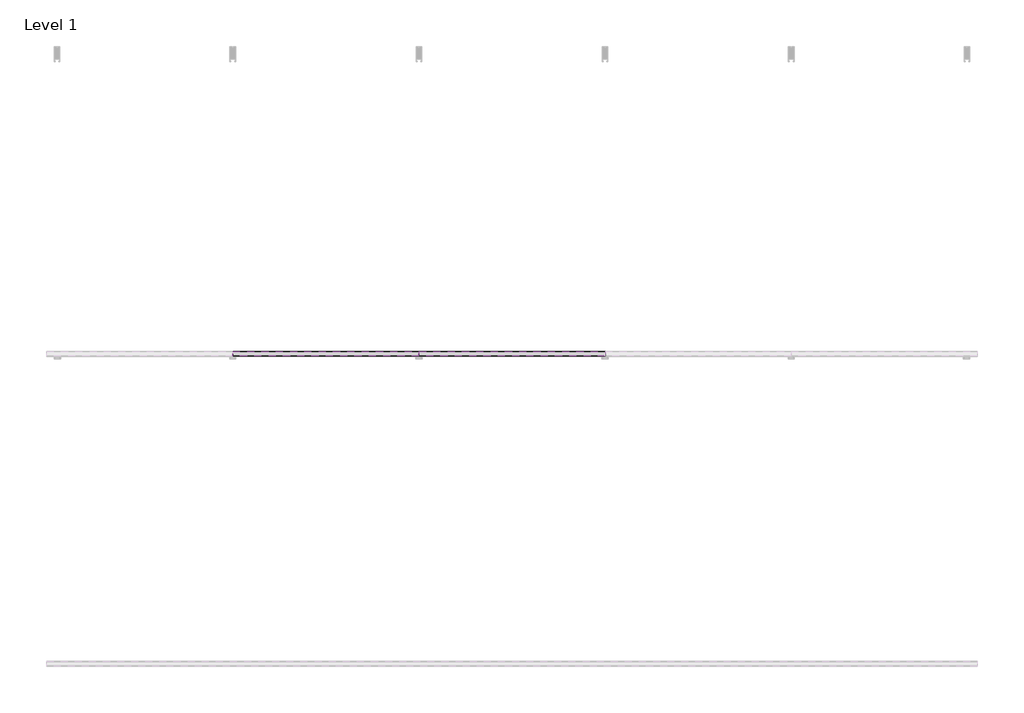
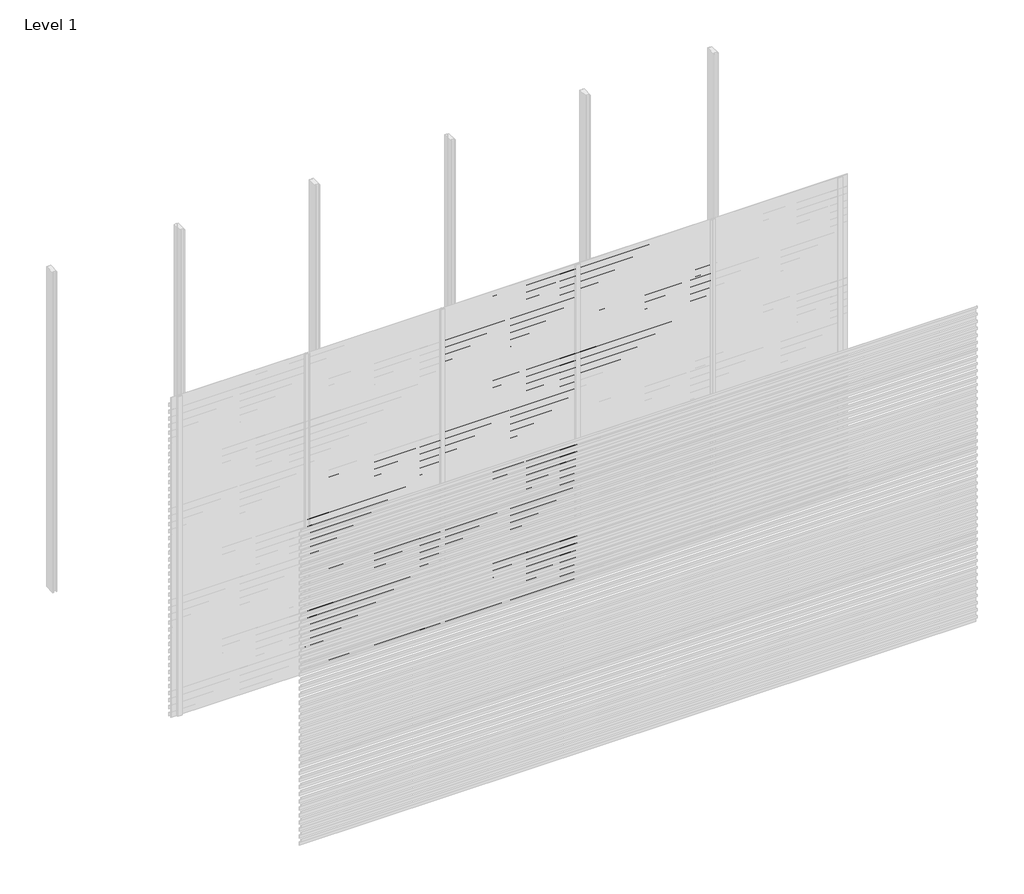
# One storey, part 20 of 33: 88 proxies.
"""IFC4 building model written with IfcOpenShell, lengths in millimetres."""

from ifc_helpers import new_model, si_unit, frame, origin, place, context, project, spatial, polyline, outline, extrude, element, save

model = new_model("IFC4")

# Units and contexts
model_context = context("Model", 3, world=origin())
ifc_project = project(units=[si_unit("LENGTHUNIT", "METRE", prefix="MILLI")], contexts=[model_context])

# Site, building, storey
site = spatial("IfcSite", under=ifc_project)
building = spatial("IfcBuilding", under=site)
storey = spatial("IfcBuildingStorey", under=building, Name="Level 1", Elevation=0.0)

# Proxies
placement = place(None, origin())
element("IfcBuildingElementProxy", 1, Name="Wall Sweeps", at=placement, inside=storey, context=model_context, shape_type="SweptSolid", body=[
    extrude(outline(polyline([(-23967.0, 1742.0), (-23967.0, 1709.0), (-23968.25, 1709.7216933), (-23968.25, 1741.2872415), (-23998.0, 1762.0588647), (-23998.0, 1782.0), (-23996.75, 1782.0), (-23996.75, 1762.7716232), (-23967.0, 1742.0)])), frame((1200.0, 0.0, 0.0), z_axis=(1.0, 0.0, 0.0), x_axis=(0.0, 1.0, 0.0)), (0.0, 0.0, 1.0), 1200.0),
])
element("IfcBuildingElementProxy", 2, Name="Wall Sweeps", at=placement, inside=storey, context=model_context, shape_type="SweptSolid", body=[
    extrude(outline(polyline([(-23967.0, 1676.0), (-23967.0, 1643.0), (-23968.25, 1643.7216933), (-23968.25, 1675.2872415), (-23998.0, 1696.0588647), (-23998.0, 1716.0), (-23996.75, 1716.0), (-23996.75, 1696.7716232), (-23967.0, 1676.0)])), frame((1200.0, 0.0, 0.0), z_axis=(1.0, 0.0, 0.0), x_axis=(0.0, 1.0, 0.0)), (0.0, 0.0, 1.0), 1200.0),
])
element("IfcBuildingElementProxy", 3, Name="Wall Sweeps", at=placement, inside=storey, context=model_context, shape_type="SweptSolid", body=[
    extrude(outline(polyline([(-23967.0, 1610.0), (-23967.0, 1577.0), (-23968.25, 1577.7216933), (-23968.25, 1609.2872415), (-23998.0, 1630.0588647), (-23998.0, 1650.0), (-23996.75, 1650.0), (-23996.75, 1630.7716232), (-23967.0, 1610.0)])), frame((1200.0, 0.0, 0.0), z_axis=(1.0, 0.0, 0.0), x_axis=(0.0, 1.0, 0.0)), (0.0, 0.0, 1.0), 1200.0),
])
element("IfcBuildingElementProxy", 4, Name="Wall Sweeps", at=placement, inside=storey, context=model_context, shape_type="SweptSolid", body=[
    extrude(outline(polyline([(-23967.0, 1544.0), (-23967.0, 1511.0), (-23968.25, 1511.7216933), (-23968.25, 1543.2872415), (-23998.0, 1564.0588647), (-23998.0, 1584.0), (-23996.75, 1584.0), (-23996.75, 1564.7716232), (-23967.0, 1544.0)])), frame((1200.0, 0.0, 0.0), z_axis=(1.0, 0.0, 0.0), x_axis=(0.0, 1.0, 0.0)), (0.0, 0.0, 1.0), 1200.0),
])
element("IfcBuildingElementProxy", 5, Name="Wall Sweeps", at=placement, inside=storey, context=model_context, shape_type="SweptSolid", body=[
    extrude(outline(polyline([(-23967.0, 1478.0), (-23967.0, 1445.0), (-23968.25, 1445.7216933), (-23968.25, 1477.2872415), (-23998.0, 1498.0588647), (-23998.0, 1518.0), (-23996.75, 1518.0), (-23996.75, 1498.7716232), (-23967.0, 1478.0)])), frame((1200.0, 0.0, 0.0), z_axis=(1.0, 0.0, 0.0), x_axis=(0.0, 1.0, 0.0)), (0.0, 0.0, 1.0), 1200.0),
])
element("IfcBuildingElementProxy", 6, Name="Wall Sweeps", at=placement, inside=storey, context=model_context, shape_type="SweptSolid", body=[
    extrude(outline(polyline([(-23967.0, 1412.0), (-23967.0, 1379.0), (-23968.25, 1379.7216933), (-23968.25, 1411.2872415), (-23998.0, 1432.0588647), (-23998.0, 1452.0), (-23996.75, 1452.0), (-23996.75, 1432.7716232), (-23967.0, 1412.0)])), frame((1200.0, 0.0, 0.0), z_axis=(1.0, 0.0, 0.0), x_axis=(0.0, 1.0, 0.0)), (0.0, 0.0, 1.0), 1200.0),
])
element("IfcBuildingElementProxy", 7, Name="Wall Sweeps", at=placement, inside=storey, context=model_context, shape_type="SweptSolid", body=[
    extrude(outline(polyline([(-23967.0, 1346.0), (-23967.0, 1313.0), (-23968.25, 1313.7216933), (-23968.25, 1345.2872415), (-23998.0, 1366.0588647), (-23998.0, 1386.0), (-23996.75, 1386.0), (-23996.75, 1366.7716232), (-23967.0, 1346.0)])), frame((1200.0, 0.0, 0.0), z_axis=(1.0, 0.0, 0.0), x_axis=(0.0, 1.0, 0.0)), (0.0, 0.0, 1.0), 1200.0),
])
element("IfcBuildingElementProxy", 8, Name="Wall Sweeps", at=placement, inside=storey, context=model_context, shape_type="SweptSolid", body=[
    extrude(outline(polyline([(-23967.0, 1280.0), (-23967.0, 1247.0), (-23968.25, 1247.7216933), (-23968.25, 1279.2872415), (-23998.0, 1300.0588647), (-23998.0, 1320.0), (-23996.75, 1320.0), (-23996.75, 1300.7716232), (-23967.0, 1280.0)])), frame((1200.0, 0.0, 0.0), z_axis=(1.0, 0.0, 0.0), x_axis=(0.0, 1.0, 0.0)), (0.0, 0.0, 1.0), 1200.0),
])
element("IfcBuildingElementProxy", 9, Name="Wall Sweeps", at=placement, inside=storey, context=model_context, shape_type="SweptSolid", body=[
    extrude(outline(polyline([(-23967.0, 1214.0), (-23967.0, 1181.0), (-23968.25, 1181.7216933), (-23968.25, 1213.2872415), (-23998.0, 1234.0588647), (-23998.0, 1254.0), (-23996.75, 1254.0), (-23996.75, 1234.7716232), (-23967.0, 1214.0)])), frame((1200.0, 0.0, 0.0), z_axis=(1.0, 0.0, 0.0), x_axis=(0.0, 1.0, 0.0)), (0.0, 0.0, 1.0), 1200.0),
])
element("IfcBuildingElementProxy", 10, Name="Wall Sweeps", at=placement, inside=storey, context=model_context, shape_type="SweptSolid", body=[
    extrude(outline(polyline([(-23967.0, 1148.0), (-23967.0, 1115.0), (-23968.25, 1115.7216933), (-23968.25, 1147.2872415), (-23998.0, 1168.0588647), (-23998.0, 1188.0), (-23996.75, 1188.0), (-23996.75, 1168.7716232), (-23967.0, 1148.0)])), frame((1200.0, 0.0, 0.0), z_axis=(1.0, 0.0, 0.0), x_axis=(0.0, 1.0, 0.0)), (0.0, 0.0, 1.0), 1200.0),
])
element("IfcBuildingElementProxy", 11, Name="Wall Sweeps", at=placement, inside=storey, context=model_context, shape_type="SweptSolid", body=[
    extrude(outline(polyline([(-23967.0, 1082.0), (-23967.0, 1049.0), (-23968.25, 1049.7216933), (-23968.25, 1081.2872415), (-23998.0, 1102.0588647), (-23998.0, 1122.0), (-23996.75, 1122.0), (-23996.75, 1102.7716232), (-23967.0, 1082.0)])), frame((1200.0, 0.0, 0.0), z_axis=(1.0, 0.0, 0.0), x_axis=(0.0, 1.0, 0.0)), (0.0, 0.0, 1.0), 1200.0),
])
element("IfcBuildingElementProxy", 12, Name="Wall Sweeps", at=placement, inside=storey, context=model_context, shape_type="SweptSolid", body=[
    extrude(outline(polyline([(-23967.0, 1016.0), (-23967.0, 983.0), (-23968.25, 983.7216933), (-23968.25, 1015.2872415), (-23998.0, 1036.0588647), (-23998.0, 1056.0), (-23996.75, 1056.0), (-23996.75, 1036.7716232), (-23967.0, 1016.0)])), frame((1200.0, 0.0, 0.0), z_axis=(1.0, 0.0, 0.0), x_axis=(0.0, 1.0, 0.0)), (0.0, 0.0, 1.0), 1200.0),
])
element("IfcBuildingElementProxy", 13, Name="Wall Sweeps", at=placement, inside=storey, context=model_context, shape_type="SweptSolid", body=[
    extrude(outline(polyline([(-23967.0, 950.0), (-23967.0, 917.0), (-23968.25, 917.7216933), (-23968.25, 949.2872415), (-23998.0, 970.0588647), (-23998.0, 990.0), (-23996.75, 990.0), (-23996.75, 970.7716232), (-23967.0, 950.0)])), frame((1200.0, 0.0, 0.0), z_axis=(1.0, 0.0, 0.0), x_axis=(0.0, 1.0, 0.0)), (0.0, 0.0, 1.0), 1200.0),
])
element("IfcBuildingElementProxy", 14, Name="Wall Sweeps", at=placement, inside=storey, context=model_context, shape_type="SweptSolid", body=[
    extrude(outline(polyline([(-23967.0, 884.0), (-23967.0, 851.0), (-23968.25, 851.7216933), (-23968.25, 883.2872415), (-23998.0, 904.0588647), (-23998.0, 924.0), (-23996.75, 924.0), (-23996.75, 904.7716232), (-23967.0, 884.0)])), frame((1200.0, 0.0, 0.0), z_axis=(1.0, 0.0, 0.0), x_axis=(0.0, 1.0, 0.0)), (0.0, 0.0, 1.0), 1200.0),
])
element("IfcBuildingElementProxy", 15, Name="Wall Sweeps", at=placement, inside=storey, context=model_context, shape_type="SweptSolid", body=[
    extrude(outline(polyline([(-23967.0, 818.0), (-23967.0, 785.0), (-23968.25, 785.7216933), (-23968.25, 817.2872415), (-23998.0, 838.0588647), (-23998.0, 858.0), (-23996.75, 858.0), (-23996.75, 838.7716232), (-23967.0, 818.0)])), frame((1200.0, 0.0, 0.0), z_axis=(1.0, 0.0, 0.0), x_axis=(0.0, 1.0, 0.0)), (0.0, 0.0, 1.0), 1200.0),
])
element("IfcBuildingElementProxy", 16, Name="Wall Sweeps", at=placement, inside=storey, context=model_context, shape_type="SweptSolid", body=[
    extrude(outline(polyline([(-23967.0, 752.0), (-23967.0, 719.0), (-23968.25, 719.7216933), (-23968.25, 751.2872415), (-23998.0, 772.0588647), (-23998.0, 792.0), (-23996.75, 792.0), (-23996.75, 772.7716232), (-23967.0, 752.0)])), frame((1200.0, 0.0, 0.0), z_axis=(1.0, 0.0, 0.0), x_axis=(0.0, 1.0, 0.0)), (0.0, 0.0, 1.0), 1200.0),
])
element("IfcBuildingElementProxy", 17, Name="Wall Sweeps", at=placement, inside=storey, context=model_context, shape_type="SweptSolid", body=[
    extrude(outline(polyline([(-23967.0, 686.0), (-23967.0, 653.0), (-23968.25, 653.7216933), (-23968.25, 685.2872415), (-23998.0, 706.0588647), (-23998.0, 726.0), (-23996.75, 726.0), (-23996.75, 706.7716232), (-23967.0, 686.0)])), frame((1200.0, 0.0, 0.0), z_axis=(1.0, 0.0, 0.0), x_axis=(0.0, 1.0, 0.0)), (0.0, 0.0, 1.0), 1200.0),
])
element("IfcBuildingElementProxy", 18, Name="Wall Sweeps", at=placement, inside=storey, context=model_context, shape_type="SweptSolid", body=[
    extrude(outline(polyline([(-23967.0, 620.0), (-23967.0, 587.0), (-23968.25, 587.7216933), (-23968.25, 619.2872415), (-23998.0, 640.0588647), (-23998.0, 660.0), (-23996.75, 660.0), (-23996.75, 640.7716232), (-23967.0, 620.0)])), frame((1200.0, 0.0, 0.0), z_axis=(1.0, 0.0, 0.0), x_axis=(0.0, 1.0, 0.0)), (0.0, 0.0, 1.0), 1200.0),
])
element("IfcBuildingElementProxy", 19, Name="Wall Sweeps", at=placement, inside=storey, context=model_context, shape_type="SweptSolid", body=[
    extrude(outline(polyline([(-23967.0, 554.0), (-23967.0, 521.0), (-23968.25, 521.7216933), (-23968.25, 553.2872415), (-23998.0, 574.0588647), (-23998.0, 594.0), (-23996.75, 594.0), (-23996.75, 574.7716232), (-23967.0, 554.0)])), frame((1200.0, 0.0, 0.0), z_axis=(1.0, 0.0, 0.0), x_axis=(0.0, 1.0, 0.0)), (0.0, 0.0, 1.0), 1200.0),
])
element("IfcBuildingElementProxy", 20, Name="Wall Sweeps", at=placement, inside=storey, context=model_context, shape_type="SweptSolid", body=[
    extrude(outline(polyline([(-23967.0, 488.0), (-23967.0, 455.0), (-23968.25, 455.7216933), (-23968.25, 487.2872415), (-23998.0, 508.0588647), (-23998.0, 528.0), (-23996.75, 528.0), (-23996.75, 508.7716232), (-23967.0, 488.0)])), frame((1200.0, 0.0, 0.0), z_axis=(1.0, 0.0, 0.0), x_axis=(0.0, 1.0, 0.0)), (0.0, 0.0, 1.0), 1200.0),
])
element("IfcBuildingElementProxy", 21, Name="Wall Sweeps", at=placement, inside=storey, context=model_context, shape_type="SweptSolid", body=[
    extrude(outline(polyline([(-23967.0, 422.0), (-23967.0, 389.0), (-23968.25, 389.7216933), (-23968.25, 421.2872415), (-23998.0, 442.0588647), (-23998.0, 462.0), (-23996.75, 462.0), (-23996.75, 442.7716232), (-23967.0, 422.0)])), frame((1200.0, 0.0, 0.0), z_axis=(1.0, 0.0, 0.0), x_axis=(0.0, 1.0, 0.0)), (0.0, 0.0, 1.0), 1200.0),
])
element("IfcBuildingElementProxy", 22, Name="Wall Sweeps", at=placement, inside=storey, context=model_context, shape_type="SweptSolid", body=[
    extrude(outline(polyline([(-23967.0, 356.0), (-23967.0, 323.0), (-23968.25, 323.7216933), (-23968.25, 355.2872415), (-23998.0, 376.0588647), (-23998.0, 396.0), (-23996.75, 396.0), (-23996.75, 376.7716232), (-23967.0, 356.0)])), frame((1200.0, 0.0, 0.0), z_axis=(1.0, 0.0, 0.0), x_axis=(0.0, 1.0, 0.0)), (0.0, 0.0, 1.0), 1200.0),
])
element("IfcBuildingElementProxy", 23, Name="Wall Sweeps", at=placement, inside=storey, context=model_context, shape_type="SweptSolid", body=[
    extrude(outline(polyline([(-23967.0, 290.0), (-23967.0, 257.0), (-23968.25, 257.7216933), (-23968.25, 289.2872415), (-23998.0, 310.0588647), (-23998.0, 330.0), (-23996.75, 330.0), (-23996.75, 310.7716232), (-23967.0, 290.0)])), frame((1200.0, 0.0, 0.0), z_axis=(1.0, 0.0, 0.0), x_axis=(0.0, 1.0, 0.0)), (0.0, 0.0, 1.0), 1200.0),
])
element("IfcBuildingElementProxy", 24, Name="Wall Sweeps", at=placement, inside=storey, context=model_context, shape_type="SweptSolid", body=[
    extrude(outline(polyline([(-23967.0, 224.0), (-23967.0, 191.0), (-23968.25, 191.7216933), (-23968.25, 223.2872415), (-23998.0, 244.0588647), (-23998.0, 264.0), (-23996.75, 264.0), (-23996.75, 244.7716232), (-23967.0, 224.0)])), frame((1200.0, 0.0, 0.0), z_axis=(1.0, 0.0, 0.0), x_axis=(0.0, 1.0, 0.0)), (0.0, 0.0, 1.0), 1200.0),
])
element("IfcBuildingElementProxy", 25, Name="Wall Sweeps", at=placement, inside=storey, context=model_context, shape_type="SweptSolid", body=[
    extrude(outline(polyline([(-23967.0, 158.0), (-23967.0, 125.0), (-23968.25, 125.7216933), (-23968.25, 157.2872415), (-23998.0, 178.0588647), (-23998.0, 198.0), (-23996.75, 198.0), (-23996.75, 178.7716232), (-23967.0, 158.0)])), frame((1200.0, 0.0, 0.0), z_axis=(1.0, 0.0, 0.0), x_axis=(0.0, 1.0, 0.0)), (0.0, 0.0, 1.0), 1200.0),
])
element("IfcBuildingElementProxy", 26, Name="Wall Sweeps", at=placement, inside=storey, context=model_context, shape_type="SweptSolid", body=[
    extrude(outline(polyline([(-23967.0, 92.0), (-23967.0, 59.0), (-23968.25, 59.7216933), (-23968.25, 91.2872415), (-23998.0, 112.0588647), (-23998.0, 132.0), (-23996.75, 132.0), (-23996.75, 112.7716232), (-23967.0, 92.0)])), frame((1200.0, 0.0, 0.0), z_axis=(1.0, 0.0, 0.0), x_axis=(0.0, 1.0, 0.0)), (0.0, 0.0, 1.0), 1200.0),
])
element("IfcBuildingElementProxy", 27, Name="Wall Sweeps", at=placement, inside=storey, context=model_context, shape_type="SweptSolid", body=[
    extrude(outline(polyline([(-23967.0, 26.0), (-23967.0, -7.0), (-23968.25, -6.2783067), (-23968.25, 25.2872415), (-23998.0, 46.0588647), (-23998.0, 66.0), (-23996.75, 66.0), (-23996.75, 46.7716232), (-23967.0, 26.0)])), frame((1200.0, 0.0, 0.0), z_axis=(1.0, 0.0, 0.0), x_axis=(0.0, 1.0, 0.0)), (0.0, 0.0, 1.0), 1200.0),
])
element("IfcBuildingElementProxy", 28, Name="Wall Sweeps", at=placement, inside=storey, context=model_context, shape_type="SweptSolid", body=[
    extrude(outline(polyline([(-23967.0, 2930.0), (-23967.0, 2897.0), (-23968.25, 2897.7216933), (-23968.25, 2929.2872415), (-23998.0, 2950.0588647), (-23998.0, 2970.0), (-23996.75, 2970.0), (-23996.75, 2950.7716232), (-23967.0, 2930.0)])), frame((2400.0, 0.0, 0.0), z_axis=(1.0, 0.0, 0.0), x_axis=(0.0, 1.0, 0.0)), (0.0, 0.0, 1.0), 1200.0),
])
element("IfcBuildingElementProxy", 29, Name="Wall Sweeps", at=placement, inside=storey, context=model_context, shape_type="SweptSolid", body=[
    extrude(outline(polyline([(-23967.0, 2864.0), (-23967.0, 2831.0), (-23968.25, 2831.7216933), (-23968.25, 2863.2872415), (-23998.0, 2884.0588647), (-23998.0, 2904.0), (-23996.75, 2904.0), (-23996.75, 2884.7716232), (-23967.0, 2864.0)])), frame((2400.0, 0.0, 0.0), z_axis=(1.0, 0.0, 0.0), x_axis=(0.0, 1.0, 0.0)), (0.0, 0.0, 1.0), 1200.0),
])
element("IfcBuildingElementProxy", 30, Name="Wall Sweeps", at=placement, inside=storey, context=model_context, shape_type="SweptSolid", body=[
    extrude(outline(polyline([(-23967.0, 2798.0), (-23967.0, 2765.0), (-23968.25, 2765.7216933), (-23968.25, 2797.2872415), (-23998.0, 2818.0588647), (-23998.0, 2838.0), (-23996.75, 2838.0), (-23996.75, 2818.7716232), (-23967.0, 2798.0)])), frame((2400.0, 0.0, 0.0), z_axis=(1.0, 0.0, 0.0), x_axis=(0.0, 1.0, 0.0)), (0.0, 0.0, 1.0), 1200.0),
])
element("IfcBuildingElementProxy", 31, Name="Wall Sweeps", at=placement, inside=storey, context=model_context, shape_type="SweptSolid", body=[
    extrude(outline(polyline([(-23967.0, 2732.0), (-23967.0, 2699.0), (-23968.25, 2699.7216933), (-23968.25, 2731.2872415), (-23998.0, 2752.0588647), (-23998.0, 2772.0), (-23996.75, 2772.0), (-23996.75, 2752.7716232), (-23967.0, 2732.0)])), frame((2400.0, 0.0, 0.0), z_axis=(1.0, 0.0, 0.0), x_axis=(0.0, 1.0, 0.0)), (0.0, 0.0, 1.0), 1200.0),
])
element("IfcBuildingElementProxy", 32, Name="Wall Sweeps", at=placement, inside=storey, context=model_context, shape_type="SweptSolid", body=[
    extrude(outline(polyline([(-23967.0, 2666.0), (-23967.0, 2633.0), (-23968.25, 2633.7216933), (-23968.25, 2665.2872415), (-23998.0, 2686.0588647), (-23998.0, 2706.0), (-23996.75, 2706.0), (-23996.75, 2686.7716232), (-23967.0, 2666.0)])), frame((2400.0, 0.0, 0.0), z_axis=(1.0, 0.0, 0.0), x_axis=(0.0, 1.0, 0.0)), (0.0, 0.0, 1.0), 1200.0),
])
element("IfcBuildingElementProxy", 33, Name="Wall Sweeps", at=placement, inside=storey, context=model_context, shape_type="SweptSolid", body=[
    extrude(outline(polyline([(-23967.0, 2600.0), (-23967.0, 2567.0), (-23968.25, 2567.7216933), (-23968.25, 2599.2872415), (-23998.0, 2620.0588647), (-23998.0, 2640.0), (-23996.75, 2640.0), (-23996.75, 2620.7716232), (-23967.0, 2600.0)])), frame((2400.0, 0.0, 0.0), z_axis=(1.0, 0.0, 0.0), x_axis=(0.0, 1.0, 0.0)), (0.0, 0.0, 1.0), 1200.0),
])
element("IfcBuildingElementProxy", 34, Name="Wall Sweeps", at=placement, inside=storey, context=model_context, shape_type="SweptSolid", body=[
    extrude(outline(polyline([(-23967.0, 2534.0), (-23967.0, 2501.0), (-23968.25, 2501.7216933), (-23968.25, 2533.2872415), (-23998.0, 2554.0588647), (-23998.0, 2574.0), (-23996.75, 2574.0), (-23996.75, 2554.7716232), (-23967.0, 2534.0)])), frame((2400.0, 0.0, 0.0), z_axis=(1.0, 0.0, 0.0), x_axis=(0.0, 1.0, 0.0)), (0.0, 0.0, 1.0), 1200.0),
])
element("IfcBuildingElementProxy", 35, Name="Wall Sweeps", at=placement, inside=storey, context=model_context, shape_type="SweptSolid", body=[
    extrude(outline(polyline([(-23967.0, 2468.0), (-23967.0, 2435.0), (-23968.25, 2435.7216933), (-23968.25, 2467.2872415), (-23998.0, 2488.0588647), (-23998.0, 2508.0), (-23996.75, 2508.0), (-23996.75, 2488.7716232), (-23967.0, 2468.0)])), frame((2400.0, 0.0, 0.0), z_axis=(1.0, 0.0, 0.0), x_axis=(0.0, 1.0, 0.0)), (0.0, 0.0, 1.0), 1200.0),
])
element("IfcBuildingElementProxy", 36, Name="Wall Sweeps", at=placement, inside=storey, context=model_context, shape_type="SweptSolid", body=[
    extrude(outline(polyline([(-23967.0, 2402.0), (-23967.0, 2369.0), (-23968.25, 2369.7216933), (-23968.25, 2401.2872415), (-23998.0, 2422.0588647), (-23998.0, 2442.0), (-23996.75, 2442.0), (-23996.75, 2422.7716232), (-23967.0, 2402.0)])), frame((2400.0, 0.0, 0.0), z_axis=(1.0, 0.0, 0.0), x_axis=(0.0, 1.0, 0.0)), (0.0, 0.0, 1.0), 1200.0),
])
element("IfcBuildingElementProxy", 37, Name="Wall Sweeps", at=placement, inside=storey, context=model_context, shape_type="SweptSolid", body=[
    extrude(outline(polyline([(-23967.0, 2336.0), (-23967.0, 2303.0), (-23968.25, 2303.7216933), (-23968.25, 2335.2872415), (-23998.0, 2356.0588647), (-23998.0, 2376.0), (-23996.75, 2376.0), (-23996.75, 2356.7716232), (-23967.0, 2336.0)])), frame((2400.0, 0.0, 0.0), z_axis=(1.0, 0.0, 0.0), x_axis=(0.0, 1.0, 0.0)), (0.0, 0.0, 1.0), 1200.0),
])
element("IfcBuildingElementProxy", 38, Name="Wall Sweeps", at=placement, inside=storey, context=model_context, shape_type="SweptSolid", body=[
    extrude(outline(polyline([(-23967.0, 2270.0), (-23967.0, 2237.0), (-23968.25, 2237.7216933), (-23968.25, 2269.2872415), (-23998.0, 2290.0588647), (-23998.0, 2310.0), (-23996.75, 2310.0), (-23996.75, 2290.7716232), (-23967.0, 2270.0)])), frame((2400.0, 0.0, 0.0), z_axis=(1.0, 0.0, 0.0), x_axis=(0.0, 1.0, 0.0)), (0.0, 0.0, 1.0), 1200.0),
])
element("IfcBuildingElementProxy", 39, Name="Wall Sweeps", at=placement, inside=storey, context=model_context, shape_type="SweptSolid", body=[
    extrude(outline(polyline([(-23967.0, 2204.0), (-23967.0, 2171.0), (-23968.25, 2171.7216933), (-23968.25, 2203.2872415), (-23998.0, 2224.0588647), (-23998.0, 2244.0), (-23996.75, 2244.0), (-23996.75, 2224.7716232), (-23967.0, 2204.0)])), frame((2400.0, 0.0, 0.0), z_axis=(1.0, 0.0, 0.0), x_axis=(0.0, 1.0, 0.0)), (0.0, 0.0, 1.0), 1200.0),
])
element("IfcBuildingElementProxy", 40, Name="Wall Sweeps", at=placement, inside=storey, context=model_context, shape_type="SweptSolid", body=[
    extrude(outline(polyline([(-23967.0, 2138.0), (-23967.0, 2105.0), (-23968.25, 2105.7216933), (-23968.25, 2137.2872415), (-23998.0, 2158.0588647), (-23998.0, 2178.0), (-23996.75, 2178.0), (-23996.75, 2158.7716232), (-23967.0, 2138.0)])), frame((2400.0, 0.0, 0.0), z_axis=(1.0, 0.0, 0.0), x_axis=(0.0, 1.0, 0.0)), (0.0, 0.0, 1.0), 1200.0),
])
element("IfcBuildingElementProxy", 41, Name="Wall Sweeps", at=placement, inside=storey, context=model_context, shape_type="SweptSolid", body=[
    extrude(outline(polyline([(-23967.0, 2072.0), (-23967.0, 2039.0), (-23968.25, 2039.7216933), (-23968.25, 2071.2872415), (-23998.0, 2092.0588647), (-23998.0, 2112.0), (-23996.75, 2112.0), (-23996.75, 2092.7716232), (-23967.0, 2072.0)])), frame((2400.0, 0.0, 0.0), z_axis=(1.0, 0.0, 0.0), x_axis=(0.0, 1.0, 0.0)), (0.0, 0.0, 1.0), 1200.0),
])
element("IfcBuildingElementProxy", 42, Name="Wall Sweeps", at=placement, inside=storey, context=model_context, shape_type="SweptSolid", body=[
    extrude(outline(polyline([(-23967.0, 2006.0), (-23967.0, 1973.0), (-23968.25, 1973.7216933), (-23968.25, 2005.2872415), (-23998.0, 2026.0588647), (-23998.0, 2046.0), (-23996.75, 2046.0), (-23996.75, 2026.7716232), (-23967.0, 2006.0)])), frame((2400.0, 0.0, 0.0), z_axis=(1.0, 0.0, 0.0), x_axis=(0.0, 1.0, 0.0)), (0.0, 0.0, 1.0), 1200.0),
])
element("IfcBuildingElementProxy", 43, Name="Wall Sweeps", at=placement, inside=storey, context=model_context, shape_type="SweptSolid", body=[
    extrude(outline(polyline([(-23967.0, 1940.0), (-23967.0, 1907.0), (-23968.25, 1907.7216933), (-23968.25, 1939.2872415), (-23998.0, 1960.0588647), (-23998.0, 1980.0), (-23996.75, 1980.0), (-23996.75, 1960.7716232), (-23967.0, 1940.0)])), frame((2400.0, 0.0, 0.0), z_axis=(1.0, 0.0, 0.0), x_axis=(0.0, 1.0, 0.0)), (0.0, 0.0, 1.0), 1200.0),
])
element("IfcBuildingElementProxy", 44, Name="Wall Sweeps", at=placement, inside=storey, context=model_context, shape_type="SweptSolid", body=[
    extrude(outline(polyline([(-23967.0, 1874.0), (-23967.0, 1841.0), (-23968.25, 1841.7216933), (-23968.25, 1873.2872415), (-23998.0, 1894.0588647), (-23998.0, 1914.0), (-23996.75, 1914.0), (-23996.75, 1894.7716232), (-23967.0, 1874.0)])), frame((2400.0, 0.0, 0.0), z_axis=(1.0, 0.0, 0.0), x_axis=(0.0, 1.0, 0.0)), (0.0, 0.0, 1.0), 1200.0),
])
element("IfcBuildingElementProxy", 45, Name="Wall Sweeps", at=placement, inside=storey, context=model_context, shape_type="SweptSolid", body=[
    extrude(outline(polyline([(-23967.0, 1808.0), (-23967.0, 1775.0), (-23968.25, 1775.7216933), (-23968.25, 1807.2872415), (-23998.0, 1828.0588647), (-23998.0, 1848.0), (-23996.75, 1848.0), (-23996.75, 1828.7716232), (-23967.0, 1808.0)])), frame((2400.0, 0.0, 0.0), z_axis=(1.0, 0.0, 0.0), x_axis=(0.0, 1.0, 0.0)), (0.0, 0.0, 1.0), 1200.0),
])
element("IfcBuildingElementProxy", 46, Name="Wall Sweeps", at=placement, inside=storey, context=model_context, shape_type="SweptSolid", body=[
    extrude(outline(polyline([(-23967.0, 1742.0), (-23967.0, 1709.0), (-23968.25, 1709.7216933), (-23968.25, 1741.2872415), (-23998.0, 1762.0588647), (-23998.0, 1782.0), (-23996.75, 1782.0), (-23996.75, 1762.7716232), (-23967.0, 1742.0)])), frame((2400.0, 0.0, 0.0), z_axis=(1.0, 0.0, 0.0), x_axis=(0.0, 1.0, 0.0)), (0.0, 0.0, 1.0), 1200.0),
])
element("IfcBuildingElementProxy", 47, Name="Wall Sweeps", at=placement, inside=storey, context=model_context, shape_type="SweptSolid", body=[
    extrude(outline(polyline([(-23967.0, 1676.0), (-23967.0, 1643.0), (-23968.25, 1643.7216933), (-23968.25, 1675.2872415), (-23998.0, 1696.0588647), (-23998.0, 1716.0), (-23996.75, 1716.0), (-23996.75, 1696.7716232), (-23967.0, 1676.0)])), frame((2400.0, 0.0, 0.0), z_axis=(1.0, 0.0, 0.0), x_axis=(0.0, 1.0, 0.0)), (0.0, 0.0, 1.0), 1200.0),
])
element("IfcBuildingElementProxy", 48, Name="Wall Sweeps", at=placement, inside=storey, context=model_context, shape_type="SweptSolid", body=[
    extrude(outline(polyline([(-23967.0, 1610.0), (-23967.0, 1577.0), (-23968.25, 1577.7216933), (-23968.25, 1609.2872415), (-23998.0, 1630.0588647), (-23998.0, 1650.0), (-23996.75, 1650.0), (-23996.75, 1630.7716232), (-23967.0, 1610.0)])), frame((2400.0, 0.0, 0.0), z_axis=(1.0, 0.0, 0.0), x_axis=(0.0, 1.0, 0.0)), (0.0, 0.0, 1.0), 1200.0),
])
element("IfcBuildingElementProxy", 49, Name="Wall Sweeps", at=placement, inside=storey, context=model_context, shape_type="SweptSolid", body=[
    extrude(outline(polyline([(-23967.0, 1544.0), (-23967.0, 1511.0), (-23968.25, 1511.7216933), (-23968.25, 1543.2872415), (-23998.0, 1564.0588647), (-23998.0, 1584.0), (-23996.75, 1584.0), (-23996.75, 1564.7716232), (-23967.0, 1544.0)])), frame((2400.0, 0.0, 0.0), z_axis=(1.0, 0.0, 0.0), x_axis=(0.0, 1.0, 0.0)), (0.0, 0.0, 1.0), 1200.0),
])
element("IfcBuildingElementProxy", 50, Name="Wall Sweeps", at=placement, inside=storey, context=model_context, shape_type="SweptSolid", body=[
    extrude(outline(polyline([(-23967.0, 1478.0), (-23967.0, 1445.0), (-23968.25, 1445.7216933), (-23968.25, 1477.2872415), (-23998.0, 1498.0588647), (-23998.0, 1518.0), (-23996.75, 1518.0), (-23996.75, 1498.7716232), (-23967.0, 1478.0)])), frame((2400.0, 0.0, 0.0), z_axis=(1.0, 0.0, 0.0), x_axis=(0.0, 1.0, 0.0)), (0.0, 0.0, 1.0), 1200.0),
])
element("IfcBuildingElementProxy", 51, Name="Wall Sweeps", at=placement, inside=storey, context=model_context, shape_type="SweptSolid", body=[
    extrude(outline(polyline([(-23967.0, 1412.0), (-23967.0, 1379.0), (-23968.25, 1379.7216933), (-23968.25, 1411.2872415), (-23998.0, 1432.0588647), (-23998.0, 1452.0), (-23996.75, 1452.0), (-23996.75, 1432.7716232), (-23967.0, 1412.0)])), frame((2400.0, 0.0, 0.0), z_axis=(1.0, 0.0, 0.0), x_axis=(0.0, 1.0, 0.0)), (0.0, 0.0, 1.0), 1200.0),
])
element("IfcBuildingElementProxy", 52, Name="Wall Sweeps", at=placement, inside=storey, context=model_context, shape_type="SweptSolid", body=[
    extrude(outline(polyline([(-23967.0, 1346.0), (-23967.0, 1313.0), (-23968.25, 1313.7216933), (-23968.25, 1345.2872415), (-23998.0, 1366.0588647), (-23998.0, 1386.0), (-23996.75, 1386.0), (-23996.75, 1366.7716232), (-23967.0, 1346.0)])), frame((2400.0, 0.0, 0.0), z_axis=(1.0, 0.0, 0.0), x_axis=(0.0, 1.0, 0.0)), (0.0, 0.0, 1.0), 1200.0),
])
element("IfcBuildingElementProxy", 53, Name="Wall Sweeps", at=placement, inside=storey, context=model_context, shape_type="SweptSolid", body=[
    extrude(outline(polyline([(-23967.0, 1280.0), (-23967.0, 1247.0), (-23968.25, 1247.7216933), (-23968.25, 1279.2872415), (-23998.0, 1300.0588647), (-23998.0, 1320.0), (-23996.75, 1320.0), (-23996.75, 1300.7716232), (-23967.0, 1280.0)])), frame((2400.0, 0.0, 0.0), z_axis=(1.0, 0.0, 0.0), x_axis=(0.0, 1.0, 0.0)), (0.0, 0.0, 1.0), 1200.0),
])
element("IfcBuildingElementProxy", 54, Name="Wall Sweeps", at=placement, inside=storey, context=model_context, shape_type="SweptSolid", body=[
    extrude(outline(polyline([(-23967.0, 1214.0), (-23967.0, 1181.0), (-23968.25, 1181.7216933), (-23968.25, 1213.2872415), (-23998.0, 1234.0588647), (-23998.0, 1254.0), (-23996.75, 1254.0), (-23996.75, 1234.7716232), (-23967.0, 1214.0)])), frame((2400.0, 0.0, 0.0), z_axis=(1.0, 0.0, 0.0), x_axis=(0.0, 1.0, 0.0)), (0.0, 0.0, 1.0), 1200.0),
])
element("IfcBuildingElementProxy", 55, Name="Wall Sweeps", at=placement, inside=storey, context=model_context, shape_type="SweptSolid", body=[
    extrude(outline(polyline([(-23967.0, 1148.0), (-23967.0, 1115.0), (-23968.25, 1115.7216933), (-23968.25, 1147.2872415), (-23998.0, 1168.0588647), (-23998.0, 1188.0), (-23996.75, 1188.0), (-23996.75, 1168.7716232), (-23967.0, 1148.0)])), frame((2400.0, 0.0, 0.0), z_axis=(1.0, 0.0, 0.0), x_axis=(0.0, 1.0, 0.0)), (0.0, 0.0, 1.0), 1200.0),
])
element("IfcBuildingElementProxy", 56, Name="Wall Sweeps", at=placement, inside=storey, context=model_context, shape_type="SweptSolid", body=[
    extrude(outline(polyline([(-23967.0, 1082.0), (-23967.0, 1049.0), (-23968.25, 1049.7216933), (-23968.25, 1081.2872415), (-23998.0, 1102.0588647), (-23998.0, 1122.0), (-23996.75, 1122.0), (-23996.75, 1102.7716232), (-23967.0, 1082.0)])), frame((2400.0, 0.0, 0.0), z_axis=(1.0, 0.0, 0.0), x_axis=(0.0, 1.0, 0.0)), (0.0, 0.0, 1.0), 1200.0),
])
element("IfcBuildingElementProxy", 57, Name="Wall Sweeps", at=placement, inside=storey, context=model_context, shape_type="SweptSolid", body=[
    extrude(outline(polyline([(-23967.0, 1016.0), (-23967.0, 983.0), (-23968.25, 983.7216933), (-23968.25, 1015.2872415), (-23998.0, 1036.0588647), (-23998.0, 1056.0), (-23996.75, 1056.0), (-23996.75, 1036.7716232), (-23967.0, 1016.0)])), frame((2400.0, 0.0, 0.0), z_axis=(1.0, 0.0, 0.0), x_axis=(0.0, 1.0, 0.0)), (0.0, 0.0, 1.0), 1200.0),
])
element("IfcBuildingElementProxy", 58, Name="Wall Sweeps", at=placement, inside=storey, context=model_context, shape_type="SweptSolid", body=[
    extrude(outline(polyline([(-23967.0, 950.0), (-23967.0, 917.0), (-23968.25, 917.7216933), (-23968.25, 949.2872415), (-23998.0, 970.0588647), (-23998.0, 990.0), (-23996.75, 990.0), (-23996.75, 970.7716232), (-23967.0, 950.0)])), frame((2400.0, 0.0, 0.0), z_axis=(1.0, 0.0, 0.0), x_axis=(0.0, 1.0, 0.0)), (0.0, 0.0, 1.0), 1200.0),
])
element("IfcBuildingElementProxy", 59, Name="Wall Sweeps", at=placement, inside=storey, context=model_context, shape_type="SweptSolid", body=[
    extrude(outline(polyline([(-23967.0, 884.0), (-23967.0, 851.0), (-23968.25, 851.7216933), (-23968.25, 883.2872415), (-23998.0, 904.0588647), (-23998.0, 924.0), (-23996.75, 924.0), (-23996.75, 904.7716232), (-23967.0, 884.0)])), frame((2400.0, 0.0, 0.0), z_axis=(1.0, 0.0, 0.0), x_axis=(0.0, 1.0, 0.0)), (0.0, 0.0, 1.0), 1200.0),
])
element("IfcBuildingElementProxy", 60, Name="Wall Sweeps", at=placement, inside=storey, context=model_context, shape_type="SweptSolid", body=[
    extrude(outline(polyline([(-23967.0, 818.0), (-23967.0, 785.0), (-23968.25, 785.7216933), (-23968.25, 817.2872415), (-23998.0, 838.0588647), (-23998.0, 858.0), (-23996.75, 858.0), (-23996.75, 838.7716232), (-23967.0, 818.0)])), frame((2400.0, 0.0, 0.0), z_axis=(1.0, 0.0, 0.0), x_axis=(0.0, 1.0, 0.0)), (0.0, 0.0, 1.0), 1200.0),
])
element("IfcBuildingElementProxy", 61, Name="Wall Sweeps", at=placement, inside=storey, context=model_context, shape_type="SweptSolid", body=[
    extrude(outline(polyline([(-23967.0, 752.0), (-23967.0, 719.0), (-23968.25, 719.7216933), (-23968.25, 751.2872415), (-23998.0, 772.0588647), (-23998.0, 792.0), (-23996.75, 792.0), (-23996.75, 772.7716232), (-23967.0, 752.0)])), frame((2400.0, 0.0, 0.0), z_axis=(1.0, 0.0, 0.0), x_axis=(0.0, 1.0, 0.0)), (0.0, 0.0, 1.0), 1200.0),
])
element("IfcBuildingElementProxy", 62, Name="Wall Sweeps", at=placement, inside=storey, context=model_context, shape_type="SweptSolid", body=[
    extrude(outline(polyline([(-23967.0, 686.0), (-23967.0, 653.0), (-23968.25, 653.7216933), (-23968.25, 685.2872415), (-23998.0, 706.0588647), (-23998.0, 726.0), (-23996.75, 726.0), (-23996.75, 706.7716232), (-23967.0, 686.0)])), frame((2400.0, 0.0, 0.0), z_axis=(1.0, 0.0, 0.0), x_axis=(0.0, 1.0, 0.0)), (0.0, 0.0, 1.0), 1200.0),
])
element("IfcBuildingElementProxy", 63, Name="Wall Sweeps", at=placement, inside=storey, context=model_context, shape_type="SweptSolid", body=[
    extrude(outline(polyline([(-23967.0, 620.0), (-23967.0, 587.0), (-23968.25, 587.7216933), (-23968.25, 619.2872415), (-23998.0, 640.0588647), (-23998.0, 660.0), (-23996.75, 660.0), (-23996.75, 640.7716232), (-23967.0, 620.0)])), frame((2400.0, 0.0, 0.0), z_axis=(1.0, 0.0, 0.0), x_axis=(0.0, 1.0, 0.0)), (0.0, 0.0, 1.0), 1200.0),
])
element("IfcBuildingElementProxy", 64, Name="Wall Sweeps", at=placement, inside=storey, context=model_context, shape_type="SweptSolid", body=[
    extrude(outline(polyline([(-23967.0, 554.0), (-23967.0, 521.0), (-23968.25, 521.7216933), (-23968.25, 553.2872415), (-23998.0, 574.0588647), (-23998.0, 594.0), (-23996.75, 594.0), (-23996.75, 574.7716232), (-23967.0, 554.0)])), frame((2400.0, 0.0, 0.0), z_axis=(1.0, 0.0, 0.0), x_axis=(0.0, 1.0, 0.0)), (0.0, 0.0, 1.0), 1200.0),
])
element("IfcBuildingElementProxy", 65, Name="Wall Sweeps", at=placement, inside=storey, context=model_context, shape_type="SweptSolid", body=[
    extrude(outline(polyline([(-23967.0, 488.0), (-23967.0, 455.0), (-23968.25, 455.7216933), (-23968.25, 487.2872415), (-23998.0, 508.0588647), (-23998.0, 528.0), (-23996.75, 528.0), (-23996.75, 508.7716232), (-23967.0, 488.0)])), frame((2400.0, 0.0, 0.0), z_axis=(1.0, 0.0, 0.0), x_axis=(0.0, 1.0, 0.0)), (0.0, 0.0, 1.0), 1200.0),
])
element("IfcBuildingElementProxy", 66, Name="Wall Sweeps", at=placement, inside=storey, context=model_context, shape_type="SweptSolid", body=[
    extrude(outline(polyline([(-23967.0, 422.0), (-23967.0, 389.0), (-23968.25, 389.7216933), (-23968.25, 421.2872415), (-23998.0, 442.0588647), (-23998.0, 462.0), (-23996.75, 462.0), (-23996.75, 442.7716232), (-23967.0, 422.0)])), frame((2400.0, 0.0, 0.0), z_axis=(1.0, 0.0, 0.0), x_axis=(0.0, 1.0, 0.0)), (0.0, 0.0, 1.0), 1200.0),
])
element("IfcBuildingElementProxy", 67, Name="Wall Sweeps", at=placement, inside=storey, context=model_context, shape_type="SweptSolid", body=[
    extrude(outline(polyline([(-23967.0, 356.0), (-23967.0, 323.0), (-23968.25, 323.7216933), (-23968.25, 355.2872415), (-23998.0, 376.0588647), (-23998.0, 396.0), (-23996.75, 396.0), (-23996.75, 376.7716232), (-23967.0, 356.0)])), frame((2400.0, 0.0, 0.0), z_axis=(1.0, 0.0, 0.0), x_axis=(0.0, 1.0, 0.0)), (0.0, 0.0, 1.0), 1200.0),
])
element("IfcBuildingElementProxy", 68, Name="Wall Sweeps", at=placement, inside=storey, context=model_context, shape_type="SweptSolid", body=[
    extrude(outline(polyline([(-23967.0, 290.0), (-23967.0, 257.0), (-23968.25, 257.7216933), (-23968.25, 289.2872415), (-23998.0, 310.0588647), (-23998.0, 330.0), (-23996.75, 330.0), (-23996.75, 310.7716232), (-23967.0, 290.0)])), frame((2400.0, 0.0, 0.0), z_axis=(1.0, 0.0, 0.0), x_axis=(0.0, 1.0, 0.0)), (0.0, 0.0, 1.0), 1200.0),
])
element("IfcBuildingElementProxy", 69, Name="Wall Sweeps", at=placement, inside=storey, context=model_context, shape_type="SweptSolid", body=[
    extrude(outline(polyline([(-23967.0, 224.0), (-23967.0, 191.0), (-23968.25, 191.7216933), (-23968.25, 223.2872415), (-23998.0, 244.0588647), (-23998.0, 264.0), (-23996.75, 264.0), (-23996.75, 244.7716232), (-23967.0, 224.0)])), frame((2400.0, 0.0, 0.0), z_axis=(1.0, 0.0, 0.0), x_axis=(0.0, 1.0, 0.0)), (0.0, 0.0, 1.0), 1200.0),
])
element("IfcBuildingElementProxy", 70, Name="Wall Sweeps", at=placement, inside=storey, context=model_context, shape_type="SweptSolid", body=[
    extrude(outline(polyline([(-23967.0, 158.0), (-23967.0, 125.0), (-23968.25, 125.7216933), (-23968.25, 157.2872415), (-23998.0, 178.0588647), (-23998.0, 198.0), (-23996.75, 198.0), (-23996.75, 178.7716232), (-23967.0, 158.0)])), frame((2400.0, 0.0, 0.0), z_axis=(1.0, 0.0, 0.0), x_axis=(0.0, 1.0, 0.0)), (0.0, 0.0, 1.0), 1200.0),
])
element("IfcBuildingElementProxy", 71, Name="Wall Sweeps", at=placement, inside=storey, context=model_context, shape_type="SweptSolid", body=[
    extrude(outline(polyline([(-23967.0, 92.0), (-23967.0, 59.0), (-23968.25, 59.7216933), (-23968.25, 91.2872415), (-23998.0, 112.0588647), (-23998.0, 132.0), (-23996.75, 132.0), (-23996.75, 112.7716232), (-23967.0, 92.0)])), frame((2400.0, 0.0, 0.0), z_axis=(1.0, 0.0, 0.0), x_axis=(0.0, 1.0, 0.0)), (0.0, 0.0, 1.0), 1200.0),
])
element("IfcBuildingElementProxy", 72, Name="Wall Sweeps", at=placement, inside=storey, context=model_context, shape_type="SweptSolid", body=[
    extrude(outline(polyline([(-23967.0, 26.0), (-23967.0, -7.0), (-23968.25, -6.2783067), (-23968.25, 25.2872415), (-23998.0, 46.0588647), (-23998.0, 66.0), (-23996.75, 66.0), (-23996.75, 46.7716232), (-23967.0, 26.0)])), frame((2400.0, 0.0, 0.0), z_axis=(1.0, 0.0, 0.0), x_axis=(0.0, 1.0, 0.0)), (0.0, 0.0, 1.0), 1200.0),
])
element("IfcBuildingElementProxy", 73, Name="Wall Sweeps", at=placement, inside=storey, context=model_context, shape_type="SweptSolid", body=[
    extrude(outline(polyline([(-23967.0, 2930.0), (-23967.0, 2897.0), (-23968.25, 2897.7216933), (-23968.25, 2929.2872415), (-23998.0, 2950.0588647), (-23998.0, 2970.0), (-23996.75, 2970.0), (-23996.75, 2950.7716232), (-23967.0, 2930.0)])), frame((3600.0, 0.0, 0.0), z_axis=(1.0, 0.0, 0.0), x_axis=(0.0, 1.0, 0.0)), (0.0, 0.0, 1.0), 1200.0),
])
element("IfcBuildingElementProxy", 74, Name="Wall Sweeps", at=placement, inside=storey, context=model_context, shape_type="SweptSolid", body=[
    extrude(outline(polyline([(-23967.0, 2864.0), (-23967.0, 2831.0), (-23968.25, 2831.7216933), (-23968.25, 2863.2872415), (-23998.0, 2884.0588647), (-23998.0, 2904.0), (-23996.75, 2904.0), (-23996.75, 2884.7716232), (-23967.0, 2864.0)])), frame((3600.0, 0.0, 0.0), z_axis=(1.0, 0.0, 0.0), x_axis=(0.0, 1.0, 0.0)), (0.0, 0.0, 1.0), 1200.0),
])
element("IfcBuildingElementProxy", 75, Name="Wall Sweeps", at=placement, inside=storey, context=model_context, shape_type="SweptSolid", body=[
    extrude(outline(polyline([(-23967.0, 2798.0), (-23967.0, 2765.0), (-23968.25, 2765.7216933), (-23968.25, 2797.2872415), (-23998.0, 2818.0588647), (-23998.0, 2838.0), (-23996.75, 2838.0), (-23996.75, 2818.7716232), (-23967.0, 2798.0)])), frame((3600.0, 0.0, 0.0), z_axis=(1.0, 0.0, 0.0), x_axis=(0.0, 1.0, 0.0)), (0.0, 0.0, 1.0), 1200.0),
])
element("IfcBuildingElementProxy", 76, Name="Wall Sweeps", at=placement, inside=storey, context=model_context, shape_type="SweptSolid", body=[
    extrude(outline(polyline([(-23967.0, 2732.0), (-23967.0, 2699.0), (-23968.25, 2699.7216933), (-23968.25, 2731.2872415), (-23998.0, 2752.0588647), (-23998.0, 2772.0), (-23996.75, 2772.0), (-23996.75, 2752.7716232), (-23967.0, 2732.0)])), frame((3600.0, 0.0, 0.0), z_axis=(1.0, 0.0, 0.0), x_axis=(0.0, 1.0, 0.0)), (0.0, 0.0, 1.0), 1200.0),
])
element("IfcBuildingElementProxy", 77, Name="Wall Sweeps", at=placement, inside=storey, context=model_context, shape_type="SweptSolid", body=[
    extrude(outline(polyline([(-23967.0, 2666.0), (-23967.0, 2633.0), (-23968.25, 2633.7216933), (-23968.25, 2665.2872415), (-23998.0, 2686.0588647), (-23998.0, 2706.0), (-23996.75, 2706.0), (-23996.75, 2686.7716232), (-23967.0, 2666.0)])), frame((3600.0, 0.0, 0.0), z_axis=(1.0, 0.0, 0.0), x_axis=(0.0, 1.0, 0.0)), (0.0, 0.0, 1.0), 1200.0),
])
element("IfcBuildingElementProxy", 78, Name="Wall Sweeps", at=placement, inside=storey, context=model_context, shape_type="SweptSolid", body=[
    extrude(outline(polyline([(-23967.0, 2600.0), (-23967.0, 2567.0), (-23968.25, 2567.7216933), (-23968.25, 2599.2872415), (-23998.0, 2620.0588647), (-23998.0, 2640.0), (-23996.75, 2640.0), (-23996.75, 2620.7716232), (-23967.0, 2600.0)])), frame((3600.0, 0.0, 0.0), z_axis=(1.0, 0.0, 0.0), x_axis=(0.0, 1.0, 0.0)), (0.0, 0.0, 1.0), 1200.0),
])
element("IfcBuildingElementProxy", 79, Name="Wall Sweeps", at=placement, inside=storey, context=model_context, shape_type="SweptSolid", body=[
    extrude(outline(polyline([(-23967.0, 2534.0), (-23967.0, 2501.0), (-23968.25, 2501.7216933), (-23968.25, 2533.2872415), (-23998.0, 2554.0588647), (-23998.0, 2574.0), (-23996.75, 2574.0), (-23996.75, 2554.7716232), (-23967.0, 2534.0)])), frame((3600.0, 0.0, 0.0), z_axis=(1.0, 0.0, 0.0), x_axis=(0.0, 1.0, 0.0)), (0.0, 0.0, 1.0), 1200.0),
])
element("IfcBuildingElementProxy", 80, Name="Wall Sweeps", at=placement, inside=storey, context=model_context, shape_type="SweptSolid", body=[
    extrude(outline(polyline([(-23967.0, 2468.0), (-23967.0, 2435.0), (-23968.25, 2435.7216933), (-23968.25, 2467.2872415), (-23998.0, 2488.0588647), (-23998.0, 2508.0), (-23996.75, 2508.0), (-23996.75, 2488.7716232), (-23967.0, 2468.0)])), frame((3600.0, 0.0, 0.0), z_axis=(1.0, 0.0, 0.0), x_axis=(0.0, 1.0, 0.0)), (0.0, 0.0, 1.0), 1200.0),
])
element("IfcBuildingElementProxy", 81, Name="Wall Sweeps", at=placement, inside=storey, context=model_context, shape_type="SweptSolid", body=[
    extrude(outline(polyline([(-23967.0, 2402.0), (-23967.0, 2369.0), (-23968.25, 2369.7216933), (-23968.25, 2401.2872415), (-23998.0, 2422.0588647), (-23998.0, 2442.0), (-23996.75, 2442.0), (-23996.75, 2422.7716232), (-23967.0, 2402.0)])), frame((3600.0, 0.0, 0.0), z_axis=(1.0, 0.0, 0.0), x_axis=(0.0, 1.0, 0.0)), (0.0, 0.0, 1.0), 1200.0),
])
element("IfcBuildingElementProxy", 82, Name="Wall Sweeps", at=placement, inside=storey, context=model_context, shape_type="SweptSolid", body=[
    extrude(outline(polyline([(-23967.0, 2336.0), (-23967.0, 2303.0), (-23968.25, 2303.7216933), (-23968.25, 2335.2872415), (-23998.0, 2356.0588647), (-23998.0, 2376.0), (-23996.75, 2376.0), (-23996.75, 2356.7716232), (-23967.0, 2336.0)])), frame((3600.0, 0.0, 0.0), z_axis=(1.0, 0.0, 0.0), x_axis=(0.0, 1.0, 0.0)), (0.0, 0.0, 1.0), 1200.0),
])
element("IfcBuildingElementProxy", 83, Name="Wall Sweeps", at=placement, inside=storey, context=model_context, shape_type="SweptSolid", body=[
    extrude(outline(polyline([(-23967.0, 2270.0), (-23967.0, 2237.0), (-23968.25, 2237.7216933), (-23968.25, 2269.2872415), (-23998.0, 2290.0588647), (-23998.0, 2310.0), (-23996.75, 2310.0), (-23996.75, 2290.7716232), (-23967.0, 2270.0)])), frame((3600.0, 0.0, 0.0), z_axis=(1.0, 0.0, 0.0), x_axis=(0.0, 1.0, 0.0)), (0.0, 0.0, 1.0), 1200.0),
])
element("IfcBuildingElementProxy", 84, Name="Wall Sweeps", at=placement, inside=storey, context=model_context, shape_type="SweptSolid", body=[
    extrude(outline(polyline([(-23967.0, 2204.0), (-23967.0, 2171.0), (-23968.25, 2171.7216933), (-23968.25, 2203.2872415), (-23998.0, 2224.0588647), (-23998.0, 2244.0), (-23996.75, 2244.0), (-23996.75, 2224.7716232), (-23967.0, 2204.0)])), frame((3600.0, 0.0, 0.0), z_axis=(1.0, 0.0, 0.0), x_axis=(0.0, 1.0, 0.0)), (0.0, 0.0, 1.0), 1200.0),
])
element("IfcBuildingElementProxy", 85, Name="Wall Sweeps", at=placement, inside=storey, context=model_context, shape_type="SweptSolid", body=[
    extrude(outline(polyline([(-23967.0, 2138.0), (-23967.0, 2105.0), (-23968.25, 2105.7216933), (-23968.25, 2137.2872415), (-23998.0, 2158.0588647), (-23998.0, 2178.0), (-23996.75, 2178.0), (-23996.75, 2158.7716232), (-23967.0, 2138.0)])), frame((3600.0, 0.0, 0.0), z_axis=(1.0, 0.0, 0.0), x_axis=(0.0, 1.0, 0.0)), (0.0, 0.0, 1.0), 1200.0),
])
element("IfcBuildingElementProxy", 86, Name="Wall Sweeps", at=placement, inside=storey, context=model_context, shape_type="SweptSolid", body=[
    extrude(outline(polyline([(-23967.0, 2072.0), (-23967.0, 2039.0), (-23968.25, 2039.7216933), (-23968.25, 2071.2872415), (-23998.0, 2092.0588647), (-23998.0, 2112.0), (-23996.75, 2112.0), (-23996.75, 2092.7716232), (-23967.0, 2072.0)])), frame((3600.0, 0.0, 0.0), z_axis=(1.0, 0.0, 0.0), x_axis=(0.0, 1.0, 0.0)), (0.0, 0.0, 1.0), 1200.0),
])
element("IfcBuildingElementProxy", 87, Name="Wall Sweeps", at=placement, inside=storey, context=model_context, shape_type="SweptSolid", body=[
    extrude(outline(polyline([(-23967.0, 2006.0), (-23967.0, 1973.0), (-23968.25, 1973.7216933), (-23968.25, 2005.2872415), (-23998.0, 2026.0588647), (-23998.0, 2046.0), (-23996.75, 2046.0), (-23996.75, 2026.7716232), (-23967.0, 2006.0)])), frame((3600.0, 0.0, 0.0), z_axis=(1.0, 0.0, 0.0), x_axis=(0.0, 1.0, 0.0)), (0.0, 0.0, 1.0), 1200.0),
])
element("IfcBuildingElementProxy", 88, Name="Wall Sweeps", at=placement, inside=storey, context=model_context, shape_type="SweptSolid", body=[
    extrude(outline(polyline([(-23967.0, 1940.0), (-23967.0, 1907.0), (-23968.25, 1907.7216933), (-23968.25, 1939.2872415), (-23998.0, 1960.0588647), (-23998.0, 1980.0), (-23996.75, 1980.0), (-23996.75, 1960.7716232), (-23967.0, 1940.0)])), frame((3600.0, 0.0, 0.0), z_axis=(1.0, 0.0, 0.0), x_axis=(0.0, 1.0, 0.0)), (0.0, 0.0, 1.0), 1200.0),
])

save(model, "model.ifc")
